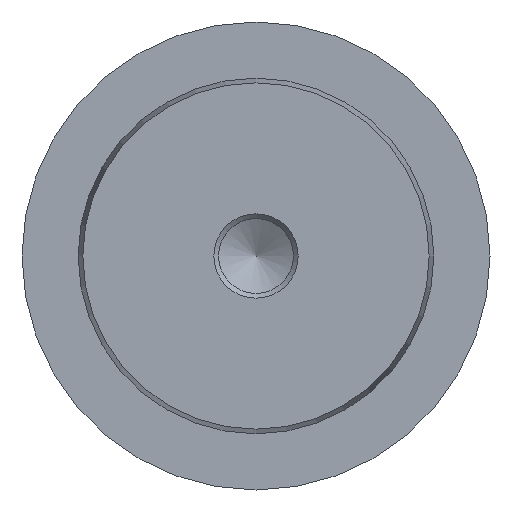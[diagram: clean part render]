
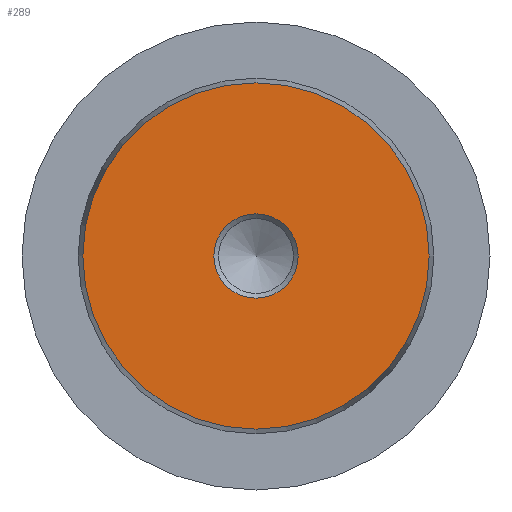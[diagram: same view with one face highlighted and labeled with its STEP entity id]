
A CAD part, left-side view. The second image highlights one B-rep face of the part: STEP entity #289.
In plain terms, the highlighted planar face has unit normal (-1, 0, 0).
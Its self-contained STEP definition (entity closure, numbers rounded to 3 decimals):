
#22=FACE_BOUND('',#94,.T.);
#26=PLANE('',#338);
#72=FACE_OUTER_BOUND('',#93,.T.);
#93=EDGE_LOOP('',(#210));
#94=EDGE_LOOP('',(#211));
#119=CIRCLE('',#337,4.5);
#120=CIRCLE('',#339,18.5);
#139=VERTEX_POINT('',#487);
#140=VERTEX_POINT('',#491);
#165=EDGE_CURVE('',#139,#139,#119,.T.);
#166=EDGE_CURVE('',#140,#140,#120,.T.);
#210=ORIENTED_EDGE('',*,*,#166,.F.);
#211=ORIENTED_EDGE('',*,*,#165,.T.);
#289=ADVANCED_FACE('',(#72,#22),#26,.T.);
#337=AXIS2_PLACEMENT_3D('',#489,#396,#397);
#338=AXIS2_PLACEMENT_3D('',#490,#398,#399);
#339=AXIS2_PLACEMENT_3D('',#492,#400,#401);
#396=DIRECTION('center_axis',(1.,0.,0.));
#397=DIRECTION('ref_axis',(0.,0.,-1.));
#398=DIRECTION('center_axis',(-1.,0.,0.));
#399=DIRECTION('ref_axis',(0.,0.,1.));
#400=DIRECTION('center_axis',(1.,0.,0.));
#401=DIRECTION('ref_axis',(0.,0.,-1.));
#487=CARTESIAN_POINT('',(0.,-4.5,0.));
#489=CARTESIAN_POINT('Origin',(0.,0.,0.));
#490=CARTESIAN_POINT('Origin',(0.,18.5,0.));
#491=CARTESIAN_POINT('',(0.,-18.5,0.));
#492=CARTESIAN_POINT('Origin',(0.,0.,0.));
